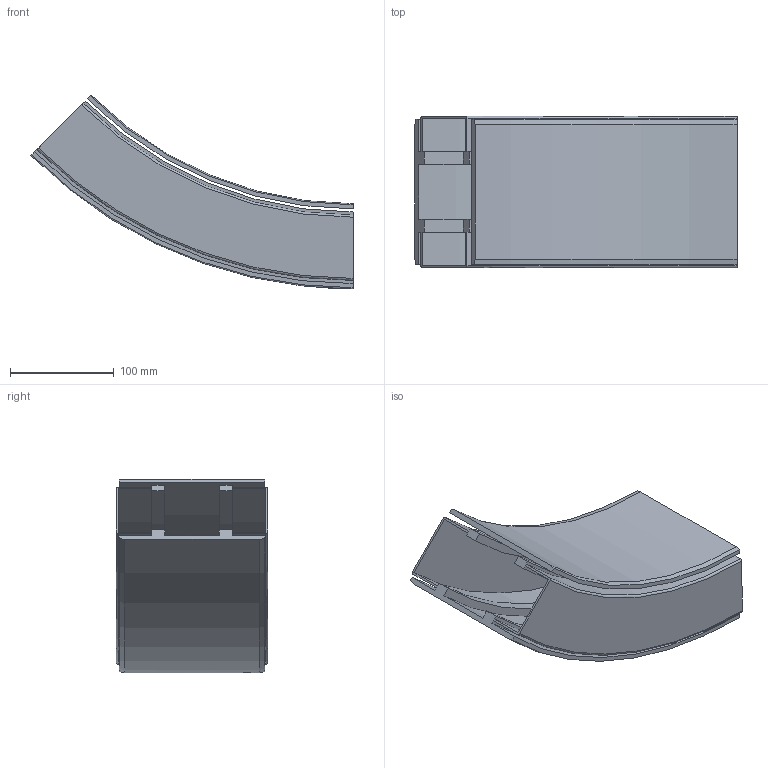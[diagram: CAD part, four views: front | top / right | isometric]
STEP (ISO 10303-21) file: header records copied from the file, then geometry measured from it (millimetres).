
FILE_DESCRIPTION(/* description */ ('VERTIKALKURVA S540 R400'),/* implementation_level */ '2;1');
FILE_NAME(/* name */ '540-5645+140-2000-NER-01.stp',/* time_stamp */ '2022-09-21T10:51:49+02:00',/* author */ ('Mathias.Dore'),/* organization */ ('CARRYLINE'),/* preprocessor_version */ 'ST-DEVELOPER v19.2',/* originating_system */ 'Autodesk Inventor 2023',/* authorisation */ '');
FILE_SCHEMA (('AUTOMOTIVE_DESIGN { 1 0 10303 214 3 1 1 }'));
Length unit declared in the file: millimetre
Products named in the file (1): 540-5645+140-2000-NER-01
Bounding box: 310.77 x 146 x 186.71 mm (x, y, z)
Volume: 719218.5 mm3; surface area: 375459 mm2
Topology: 2 solids, 2 shells, 87 faces, 234 edges, 156 vertices
Faces by surface type: plane 40, cylinder 25, bspline 14, cone 4, torus 4
Entity records: 7378 total; most frequent: CARTESIAN_POINT 5179, ORIENTED_EDGE 468, DIRECTION 408, EDGE_CURVE 234, VERTEX_POINT 156, AXIS2_PLACEMENT_3D 141, LINE 126, VECTOR 126
